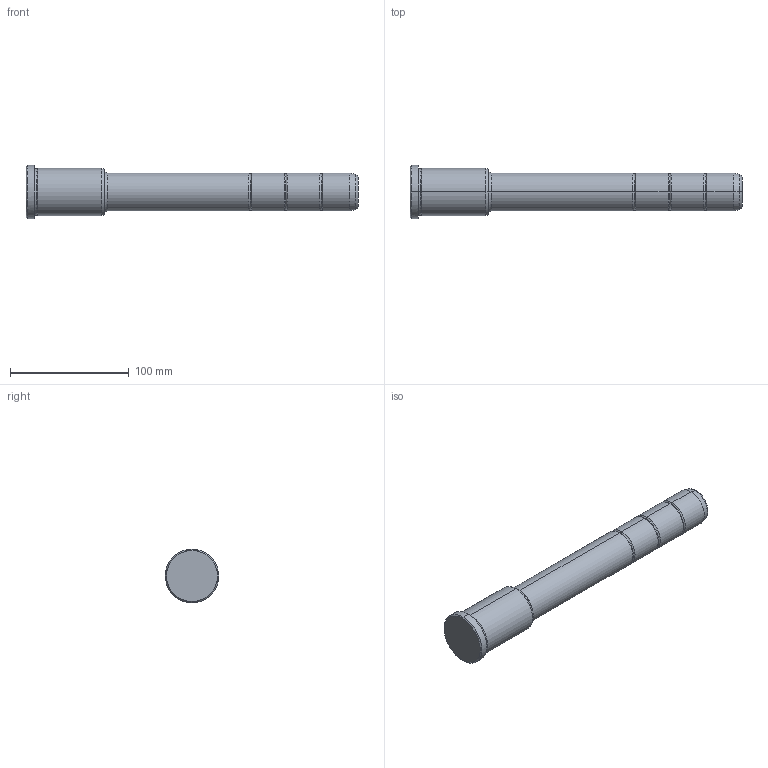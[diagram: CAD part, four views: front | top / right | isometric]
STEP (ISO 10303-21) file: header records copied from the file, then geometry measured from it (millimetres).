
FILE_DESCRIPTION(('CATIA V5 STEP Exchange'),'2;1');
FILE_NAME('C:\Users\Utente\Desktop\IO LAVORO\3D X SITO CF\X SITO\PLASTICA\351\351-32X66X280.stp','2021-09-07T13:38:08+00:00',('none'),('none'),'CATIA Version 5 Release 20 GA (IN-10)','CATIA V5 STEP AP203','none');
FILE_SCHEMA(('CONFIG_CONTROL_DESIGN'));
Length unit declared in the file: millimetre
Products named in the file (1): 351-32X66X280
Bounding box: 280 x 45 x 45 mm (x, y, z)
Volume: 256036.5 mm3; surface area: 32722.8 mm2
Topology: 1 solids, 1 shells, 42 faces, 118 edges, 80 vertices
Faces by surface type: torus 20, cylinder 12, cone 6, plane 4
Entity records: 1472 total; most frequent: CARTESIAN_POINT 353, ORIENTED_EDGE 236, DIRECTION 194, AXIS2_PLACEMENT_3D 135, EDGE_CURVE 118, CIRCLE 92, VERTEX_POINT 80, EDGE_LOOP 44
